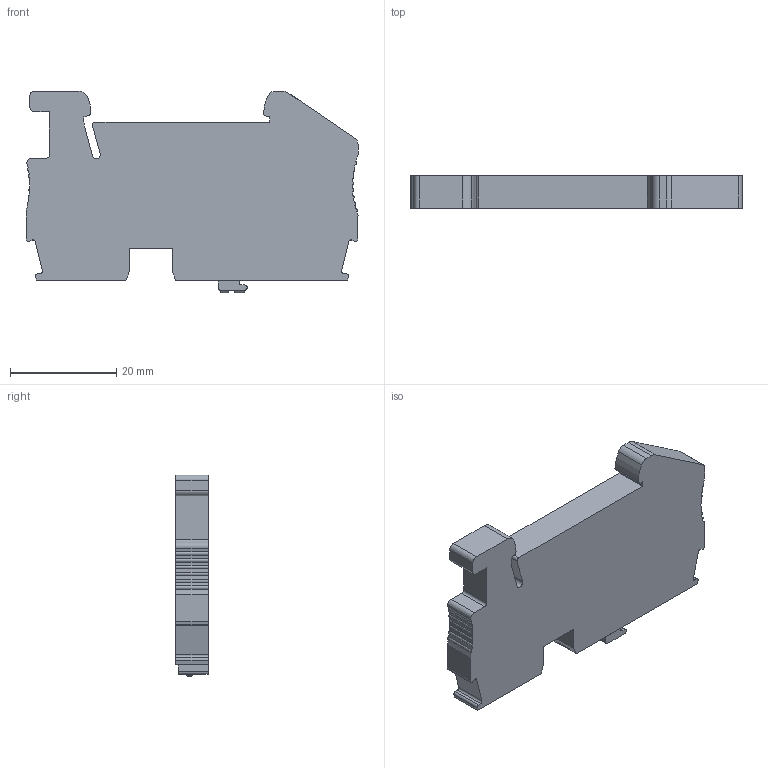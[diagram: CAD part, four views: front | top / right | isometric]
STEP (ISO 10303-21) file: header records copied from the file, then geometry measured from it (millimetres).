
FILE_DESCRIPTION(/* description */ (''),/* implementation_level */ '2;1');
FILE_NAME(/* name */ '',/* time_stamp */ '',/* author */ (''),/* organization */ (''),/* preprocessor_version */ '',/* originating_system */ '',/* authorisation */ '');
FILE_SCHEMA (('AUTOMOTIVE_DESIGN { 1 0 10303 214 3 1 1 }'));
Length unit declared in the file: millimetre
Products named in the file (1): CST4-MT-3D
Bounding box: 62.5 x 6.15 x 38 mm (x, y, z)
Volume: 10886.2 mm3; surface area: 5508.1 mm2
Topology: 1 solids, 1 shells, 191 faces, 546 edges, 356 vertices
Faces by surface type: plane 119, cylinder 70, cone 2
Entity records: 6482 total; most frequent: CARTESIAN_POINT 1107, ORIENTED_EDGE 1092, DIRECTION 1078, EDGE_CURVE 546, LINE 388, VECTOR 388, VERTEX_POINT 356, AXIS2_PLACEMENT_3D 345
